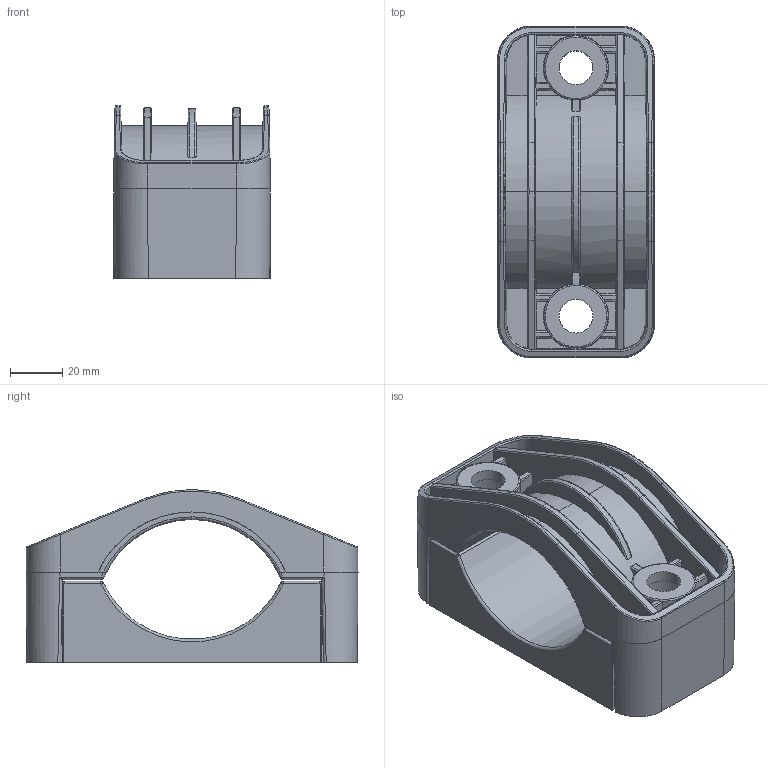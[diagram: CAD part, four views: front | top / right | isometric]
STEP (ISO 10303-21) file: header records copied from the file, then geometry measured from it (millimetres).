
FILE_DESCRIPTION (( 'STEP AP214' ), '1' );
FILE_NAME ('4.462.001 - OBEJMA.STEP', '2011-07-08T14:53:05', ( '£ukasz Cieæka' ), ( '' ), 'SwSTEP 2.0', 'SolidWorks 2010', '' );
FILE_SCHEMA (( 'AUTOMOTIVE_DESIGN' ));
Length unit declared in the file: millimetre
Products named in the file (3): 4.462.001.02_A; 4.462.001.01_A; 4.462.001 - OBEJMA
Assembly tree (2 placements, depth 2):
  4.462.001 - OBEJMA
    4.462.001.01_A
    4.462.001.02_A
Bounding box: 60.05 x 127.05 x 66 mm (x, y, z)
Volume: 140846.6 mm3; surface area: 86503.8 mm2
Topology: 2 solids, 2 shells, 357 faces, 1030 edges, 651 vertices
Faces by surface type: plane 145, cylinder 118, bspline 68, cone 26
Entity records: 18701 total; most frequent: CARTESIAN_POINT 6121, ORIENTED_EDGE 2044, DIRECTION 1509, EDGE_CURVE 1022, VERTEX_POINT 651, LINE 505, VECTOR 505, AXIS2_PLACEMENT_3D 502
